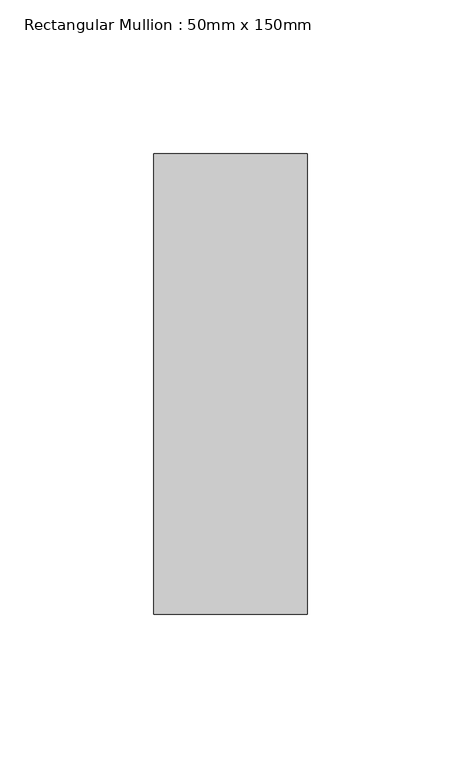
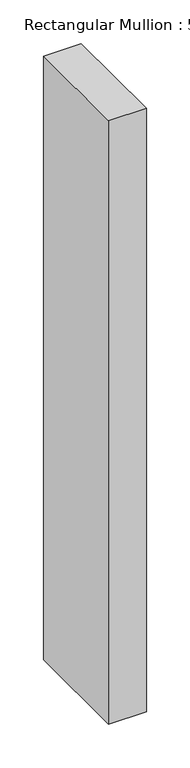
"""IFC4 building model written with IfcOpenShell, lengths in millimetres: member geometry, Rectangular Mullion : 50mm x 150mm."""

from ifc_helpers import new_model, si_unit, frame, origin, place, context, project, spatial, polyline, outline, extrude, source, transform, mapped, element, save


def rectangular_mullion_50mm_x_150mm_3fa3ad65(model_context):
    return source(origin(), model_context, "Body", "SweptSolid", [
        extrude(outline(polyline([(0.0, 75.0), (0.0, -75.0), (-50.0, -75.0), (-50.0, 75.0), (0.0, 75.0)])), frame((0.0, 0.0, -845.9473687), z_axis=(0.0, 0.0, 1.0), x_axis=(1.0, 0.0, 0.0)), (0.0, 0.0, 1.0), 845.9473687),
    ])


if __name__ == "__main__":
    model = new_model("IFC4")
    model_context = context("Model", 3, world=origin())
    ifc_project = project(units=[si_unit("LENGTHUNIT", "METRE", prefix="MILLI")], contexts=[model_context])
    site = spatial("IfcSite", under=ifc_project)
    building = spatial("IfcBuilding", under=site)
    placement = place(None, origin())
    rectangular_mullion_50mm_x_150mm_shape = rectangular_mullion_50mm_x_150mm_3fa3ad65(model_context)
    element("IfcMember", 1, ObjectType="Rectangular Mullion : 50mm x 150mm", at=placement, inside=building, context=model_context, shape_type="MappedRepresentation", body=[
        mapped(rectangular_mullion_50mm_x_150mm_shape, transform((0.0, 0.0, 0.0), x_axis=(1.0, 0.0, 0.0), y_axis=(0.0, 1.0, 0.0), z_axis=(0.0, 0.0, 1.0))),
    ])
    save(model, "model.ifc")
